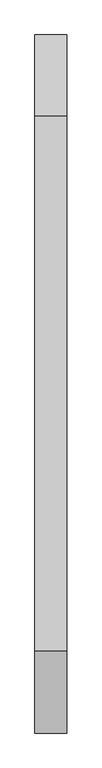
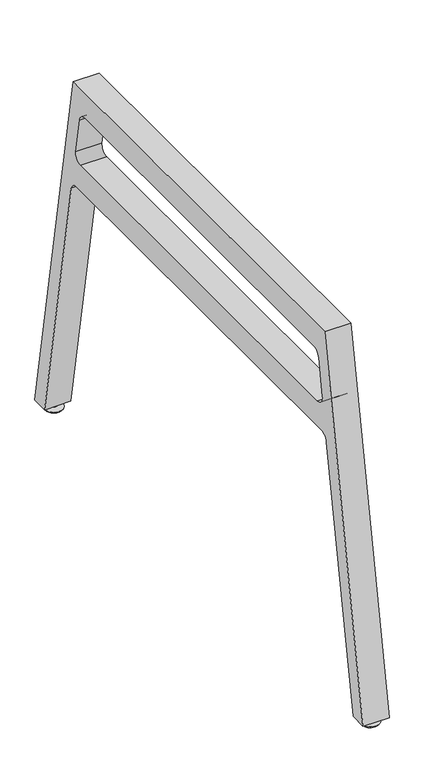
"""IFC4 building model written with IfcOpenShell, lengths in millimetres: furniture geometry, Steelcase Turnstone - Bivi - Table - Leg : 2D x 42 1/4W 28 1/2H."""

from ifc_helpers import new_model, si_unit, point, frame, frame_2d, origin, place, context, project, spatial, polyline, circle_curve, trimmed, segment, composite_curve, outline, extrude, source, transform, mapped, element, save
from ifc_brep_helpers import plane_surface, revolved_surface, spline_surface, advanced_brep


def furniture_07929c5c(model_context):
    return source(origin(), model_context, "Body", "SolidModel", [
        extrude(outline(composite_curve([segment(trimmed(circle_curve(frame_2d((24.5569238, -19.0749984)), 4.7559133), [point((19.8010105, -19.0749984))], [point((29.3128371, -19.0749984))], False, "CARTESIAN"), True, "CONTINUOUS"), segment(trimmed(circle_curve(frame_2d((24.5569238, -19.0749984)), 4.7559133), [point((29.3128371, -19.0749984))], [point((19.8010105, -19.0749984))], False, "CARTESIAN"), True, "CONTINUOUS")], self_intersect=False)), frame((0.0, 0.0, 13.97), z_axis=(0.0, 0.0, 1.0), x_axis=(1.0, 0.0, 0.0)), (0.0, 0.0, 1.0), 50.8),
        advanced_brep(
        [(18.6813191, -19.0778477, 10.16), (30.4074445, -19.0778477, 10.16), (17.7939505, -19.0282384, 6.584846), (31.2930423, -19.0282384, 6.584846)],
        [
            (0, 1, circle_curve(frame((24.5443818, -19.0778477, 10.16), z_axis=(0.0, 0.0, 1.0), x_axis=(1.0, 0.0, 0.0)), 5.8630627)),
            (1, 0, circle_curve(frame((24.5443818, -19.0778477, 10.16), z_axis=(0.0, 0.0, 1.0), x_axis=(1.0, 0.0, 0.0)), 5.8630627)),
            (2, 3, circle_curve(frame((24.5434964, -19.0282384, 6.584846), z_axis=(0.0, 0.0, -1.0), x_axis=(1.0, 0.0, 0.0)), 6.7495459)),
            (3, 2, circle_curve(frame((24.5434964, -19.0282384, 6.584846), z_axis=(0.0, 0.0, -1.0), x_axis=(1.0, 0.0, 0.0)), 6.7495459)),
            (2, 0),
            (1, 3),
        ],
        [
            plane_surface(frame((24.5443818, -19.0778477, 10.16), z_axis=(0.0, 0.0, 1.0), x_axis=(0.0, 1.0, 0.0))),
            plane_surface(frame((24.5434964, -19.0282384, 6.584846), z_axis=(0.0, 0.0, -1.0), x_axis=(0.0, 1.0, 0.0))),
            spline_surface(1, 2, [[(17.7939505, -19.0282384, 6.584846), (17.7939505, -12.278692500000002, 6.584846), (24.5434964, -12.278692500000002, 6.584846), (31.293042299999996, -12.278692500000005, 6.584846), (31.2930423, -19.0282384, 6.584846)], [(18.6813191, -19.0778477, 10.16), (18.6813191, -13.214785, 10.16), (24.5443818, -13.214785, 10.16), (30.4074445, -13.214785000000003, 10.16), (30.4074445, -19.0778477, 10.16)]], [2, 2], [3, 2, 3], [0.0, 1.0], [0.0, 1.0, 2.0], weights=[[1.0, 0.7071067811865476, 1.0, 0.7071067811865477, 1.0], [1.0, 0.7071067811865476, 1.0, 0.7071067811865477, 1.0]]),
            spline_surface(1, 2, [[(31.2930423, -19.0282384, 6.584846), (31.2930423, -25.7777843, 6.584846), (24.5434964, -25.7777843, 6.584846), (17.793950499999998, -25.777784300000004, 6.584846), (17.7939505, -19.0282384, 6.584846)], [(30.4074445, -19.0778477, 10.16), (30.4074445, -24.9409104, 10.16), (24.5443818, -24.9409104, 10.16), (18.6813191, -24.940910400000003, 10.16), (18.6813191, -19.0778477, 10.16)]], [2, 2], [3, 2, 3], [0.0, 1.0], [0.0, 1.0, 2.0], weights=[[1.0, 0.7071067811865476, 1.0, 0.7071067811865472, 1.0], [1.0, 0.7071067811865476, 1.0, 0.7071067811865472, 1.0]]),
        ],
        [
            (0, [[1, 2]]),
            (1, [[3, 4]]),
            (2, [[5, -2, 6, -3]]),
            (3, [[-6, -1, -5, -4]]),
        ],
    ),
        extrude(outline(composite_curve([segment(trimmed(circle_curve(frame_2d((24.5669801, -19.1101669)), 8.0885268), [point((16.4784533, -19.1101669))], [point((32.6555069, -19.1101669))], False, "CARTESIAN"), True, "CONTINUOUS"), segment(trimmed(circle_curve(frame_2d((24.5669801, -19.1101669)), 8.0885268), [point((32.6555069, -19.1101669))], [point((16.4784533, -19.1101669))], False, "CARTESIAN"), True, "CONTINUOUS")], self_intersect=False)), frame((0.0, 0.0, 10.16), z_axis=(0.0, 0.0, 1.0), x_axis=(1.0, 0.0, 0.0)), (0.0, 0.0, 1.0), 3.81),
        advanced_brep(
        [(17.7442301, -19.0320697, 6.584846), (31.3154293, -19.0320697, 6.584846), (7.0485966, -18.932851, 3.2723529), (41.8364836, -18.932851, 3.2723529)],
        [
            (0, 1, circle_curve(frame((24.5298297, -19.0320697, 6.584846), z_axis=(0.0, 0.0, 1.0), x_axis=(1.0, 0.0, 0.0)), 6.7855996)),
            (1, 0, circle_curve(frame((24.5298297, -19.0320697, 6.584846), z_axis=(0.0, 0.0, 1.0), x_axis=(1.0, 0.0, 0.0)), 6.7855996)),
            (2, 3, circle_curve(frame((24.4425401, -18.932851, 3.2723529), z_axis=(0.0, 0.0, -1.0), x_axis=(1.0, 0.0, 0.0)), 17.3939435)),
            (3, 2, circle_curve(frame((24.4425401, -18.932851, 3.2723529), z_axis=(0.0, 0.0, -1.0), x_axis=(1.0, 0.0, 0.0)), 17.3939435)),
            (2, 0),
            (1, 3),
        ],
        [
            plane_surface(frame((24.5298297, -19.0320697, 6.584846), z_axis=(0.0, 0.0, 1.0), x_axis=(0.0, 1.0, 0.0))),
            plane_surface(frame((24.4425401, -18.932851, 3.2723529), z_axis=(0.0, 0.0, -1.0), x_axis=(0.0, 1.0, 0.0))),
            spline_surface(1, 2, [[(7.0485966, -18.932851, 3.2723529), (7.0485966, -1.5389075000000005, 3.2723529), (24.4425401, -1.5389075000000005, 3.2723529), (41.836483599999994, -1.538907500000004, 3.2723529), (41.8364836, -18.932851, 3.2723529)], [(17.7442301, -19.0320697, 6.584846), (17.7442301, -12.2464701, 6.584846), (24.5298297, -12.2464701, 6.584846), (31.3154293, -12.246470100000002, 6.584846), (31.3154293, -19.0320697, 6.584846)]], [2, 2], [3, 2, 3], [0.0, 1.0], [0.0, 1.0, 2.0], weights=[[1.0, 0.7071067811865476, 1.0, 0.7071067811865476, 1.0], [1.0, 0.7071067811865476, 1.0, 0.7071067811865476, 1.0]]),
            spline_surface(1, 2, [[(41.8364836, -18.932851, 3.2723529), (41.8364836, -36.326794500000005, 3.2723529), (24.4425401, -36.326794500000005, 3.2723529), (7.048596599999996, -36.326794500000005, 3.2723529), (7.0485966, -18.932851, 3.2723529)], [(31.3154293, -19.0320697, 6.584846), (31.3154293, -25.817669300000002, 6.584846), (24.5298297, -25.817669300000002, 6.584846), (17.7442301, -25.817669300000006, 6.584846), (17.7442301, -19.0320697, 6.584846)]], [2, 2], [3, 2, 3], [0.0, 1.0], [0.0, 1.0, 2.0], weights=[[1.0, 0.7071067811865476, 1.0, 0.7071067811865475, 1.0], [1.0, 0.7071067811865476, 1.0, 0.7071067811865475, 1.0]]),
        ],
        [
            (0, [[1, 2]]),
            (1, [[3, 4]]),
            (2, [[5, -2, 6, -3]]),
            (3, [[-6, -1, -5, -4]]),
        ],
    ),
        advanced_brep(
        [(9.6227561, -19.1568354, 0.0), (39.4892983, -19.1568354, 0.0), (7.0611697, -19.1568354, 3.2723529), (42.0508847, -19.1568354, 3.2723529)],
        [
            (0, 1, circle_curve(frame((24.5560272, -19.1568354, 0.0), z_axis=(0.0, 0.0, -1.0), x_axis=(1.0, 0.0, 0.0)), 14.9332711)),
            (1, 0, circle_curve(frame((24.5560272, -19.1568354, 0.0), z_axis=(0.0, 0.0, -1.0), x_axis=(-1.0, 0.0, 0.0)), 14.9332711)),
            (2, 3, circle_curve(frame((24.5560272, -19.1568354, 3.2723529), z_axis=(0.0, 0.0, 1.0), x_axis=(-1.0, 0.0, 0.0)), 17.4948575)),
            (3, 2, circle_curve(frame((24.5560272, -19.1568354, 3.2723529), z_axis=(0.0, 0.0, 1.0), x_axis=(1.0, 0.0, 0.0)), 17.4948575)),
            (2, 0),
            (1, 3),
        ],
        [
            plane_surface(frame((24.5560272, -19.1568354, 0.0), z_axis=(0.0, 0.0, -1.0), x_axis=(0.0, 1.0, 0.0))),
            plane_surface(frame((24.5560272, -19.1568354, 3.2723529), z_axis=(0.0, 0.0, 1.0), x_axis=(0.0, 1.0, 0.0))),
            revolved_surface(polyline([(9.622756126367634, -19.1568354, 0.0), (7.061169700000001, -19.1568354, 3.2723529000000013)]), (24.5560272, -19.1568354, -19.0768238), (0.0, 0.0, 1.0)),
            revolved_surface(polyline([(39.489298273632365, -19.1568354, 0.0), (42.0508847, -19.1568354, 3.2723529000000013)]), (24.5560272, -19.1568354, -19.0768238), (0.0, 0.0, 1.0)),
        ],
        [
            (0, [[1, 2]]),
            (1, [[3, 4]]),
            (2, [[5, -2, 6, -3]]),
            (3, [[-6, -1, -5, -4]]),
        ],
    ),
        extrude(outline(composite_curve([segment(polyline([(-947.7462567, 723.9), (-125.4037554, 723.9), (0.0, 12.7000004), (-32.2398199, 12.7000004), (-119.468552, 507.3990362)]), True, "CONTINUOUS"), segment(trimmed(circle_curve(frame_2d((-135.3200361, 504.6039936)), 16.0960185), [point((-119.468552, 507.3990362))], [point((-135.3200361, 520.7000121))], True, "CARTESIAN"), True, "CONTINUOUS"), segment(polyline([(-135.3200361, 520.7000121), (-937.8760568, 520.7000121)]), True, "CONTINUOUS"), segment(trimmed(circle_curve(frame_2d((-937.8760568, 504.6589483)), 16.0410638), [point((-937.8760568, 520.7000121))], [point((-953.6734208, 507.4444497))], True, "CARTESIAN"), True, "CONTINUOUS"), segment(polyline([(-953.6734208, 507.4444497), (-1040.9102104, 12.7000004), (-1073.1500121, 12.7000004), (-947.7462567, 723.9)]), True, "CONTINUOUS")], self_intersect=False), holes=[composite_curve([segment(trimmed(circle_curve(frame_2d((-148.9336513, 586.74)), 15.24), [point((-148.9336513, 571.5))], [point((-133.9251809, 589.3863967))], True, "CARTESIAN"), True, "CONTINUOUS"), segment(polyline([(-133.9251809, 589.3863967), (-146.3545145, 659.8766923)]), True, "CONTINUOUS"), segment(trimmed(circle_curve(frame_2d((-162.1134084, 657.0979758)), 16.002), [point((-146.3545145, 659.8766923))], [point((-162.1134084, 673.0999758))], True, "CARTESIAN"), True, "CONTINUOUS"), segment(polyline([(-162.1134084, 673.0999758), (-911.0575547, 673.0999758)]), True, "CONTINUOUS"), segment(trimmed(circle_curve(frame_2d((-911.0575547, 657.1229387)), 15.9770371), [point((-911.0575547, 673.0999758))], [point((-926.7918646, 659.8973224))], True, "CARTESIAN"), True, "CONTINUOUS"), segment(polyline([(-926.7918646, 659.8973224), (-939.2463549, 589.2644073)]), True, "CONTINUOUS"), segment(trimmed(circle_curve(frame_2d((-924.3402476, 586.6360581)), 15.1360581), [point((-939.2463549, 589.2644073))], [point((-924.3402476, 571.5))], True, "CARTESIAN"), True, "CONTINUOUS"), segment(polyline([(-924.3402476, 571.5), (-148.9336513, 571.5)]), True, "CONTINUOUS")], self_intersect=False)]), frame((0.0, 0.0, 0.0), z_axis=(1.0, 0.0, 0.0), x_axis=(0.0, 1.0, 0.0)), (0.0, 0.0, 1.0), 49.1236),
        extrude(outline(composite_curve([segment(trimmed(circle_curve(frame_2d((24.5569238, -1054.0750137)), 4.7559133), [point((19.8010105, -1054.0750137))], [point((29.3128371, -1054.0750137))], False, "CARTESIAN"), True, "CONTINUOUS"), segment(trimmed(circle_curve(frame_2d((24.5569238, -1054.0750137)), 4.7559133), [point((29.3128371, -1054.0750137))], [point((19.8010105, -1054.0750137))], False, "CARTESIAN"), True, "CONTINUOUS")], self_intersect=False)), frame((0.0, 0.0, 13.97), z_axis=(0.0, 0.0, 1.0), x_axis=(1.0, 0.0, 0.0)), (0.0, 0.0, 1.0), 50.8),
        advanced_brep(
        [(18.6813191, -1054.0721644, 10.16), (30.4074445, -1054.0721644, 10.16), (17.7939505, -1054.1217738, 6.584846), (31.2930423, -1054.1217738, 6.584846)],
        [
            (0, 1, circle_curve(frame((24.5443818, -1054.0721644, 10.16), z_axis=(0.0, 0.0, 1.0), x_axis=(1.0, 0.0, 0.0)), 5.8630627)),
            (1, 0, circle_curve(frame((24.5443818, -1054.0721644, 10.16), z_axis=(0.0, 0.0, 1.0), x_axis=(1.0, 0.0, 0.0)), 5.8630627)),
            (2, 3, circle_curve(frame((24.5434964, -1054.1217738, 6.584846), z_axis=(0.0, 0.0, -1.0), x_axis=(1.0, 0.0, 0.0)), 6.7495459)),
            (3, 2, circle_curve(frame((24.5434964, -1054.1217738, 6.584846), z_axis=(0.0, 0.0, -1.0), x_axis=(1.0, 0.0, 0.0)), 6.7495459)),
            (2, 0),
            (1, 3),
        ],
        [
            plane_surface(frame((24.5443818, -1054.0721644, 10.16), z_axis=(0.0, 0.0, 1.0), x_axis=(0.0, 1.0, 0.0))),
            plane_surface(frame((24.5434964, -1054.1217738, 6.584846), z_axis=(0.0, 0.0, -1.0), x_axis=(0.0, 1.0, 0.0))),
            spline_surface(1, 2, [[(17.7939505, -1054.1217738, 6.584846), (17.7939505, -1047.3722279, 6.584846), (24.5434964, -1047.3722279, 6.584846), (31.293042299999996, -1047.3722279, 6.584846), (31.2930423, -1054.1217738, 6.584846)], [(18.6813191, -1054.0721644, 10.16), (18.6813191, -1048.2091017, 10.16), (24.5443818, -1048.2091017, 10.16), (30.4074445, -1048.2091017, 10.16), (30.4074445, -1054.0721644, 10.16)]], [2, 2], [3, 2, 3], [0.0, 1.0], [0.0, 1.0, 2.0], weights=[[1.0, 0.7071067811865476, 1.0, 0.7071067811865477, 1.0], [1.0, 0.7071067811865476, 1.0, 0.7071067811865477, 1.0]]),
            spline_surface(1, 2, [[(31.2930423, -1054.1217738, 6.584846), (31.2930423, -1060.8713197, 6.584846), (24.5434964, -1060.8713197, 6.584846), (17.793950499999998, -1060.8713197, 6.584846), (17.7939505, -1054.1217738, 6.584846)], [(30.4074445, -1054.0721644, 10.16), (30.4074445, -1059.9352271, 10.16), (24.5443818, -1059.9352271, 10.16), (18.6813191, -1059.9352271, 10.16), (18.6813191, -1054.0721644, 10.16)]], [2, 2], [3, 2, 3], [0.0, 1.0], [0.0, 1.0, 2.0], weights=[[1.0, 0.7071067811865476, 1.0, 0.7071067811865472, 1.0], [1.0, 0.7071067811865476, 1.0, 0.7071067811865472, 1.0]]),
        ],
        [
            (0, [[1, 2]]),
            (1, [[3, 4]]),
            (2, [[5, -2, 6, -3]]),
            (3, [[-6, -1, -5, -4]]),
        ],
    ),
        extrude(outline(composite_curve([segment(trimmed(circle_curve(frame_2d((24.5669801, -1054.0398453)), 8.0885268), [point((16.4784533, -1054.0398453))], [point((32.6555069, -1054.0398453))], False, "CARTESIAN"), True, "CONTINUOUS"), segment(trimmed(circle_curve(frame_2d((24.5669801, -1054.0398453)), 8.0885268), [point((32.6555069, -1054.0398453))], [point((16.4784533, -1054.0398453))], False, "CARTESIAN"), True, "CONTINUOUS")], self_intersect=False)), frame((0.0, 0.0, 10.16), z_axis=(0.0, 0.0, 1.0), x_axis=(1.0, 0.0, 0.0)), (0.0, 0.0, 1.0), 3.81),
        advanced_brep(
        [(17.7442301, -1054.1179424, 6.584846), (31.3154293, -1054.1179424, 6.584846), (7.0485966, -1054.2171611, 3.2723529), (41.8364836, -1054.2171611, 3.2723529)],
        [
            (0, 1, circle_curve(frame((24.5298297, -1054.1179424, 6.584846), z_axis=(0.0, 0.0, 1.0), x_axis=(1.0, 0.0, 0.0)), 6.7855996)),
            (1, 0, circle_curve(frame((24.5298297, -1054.1179424, 6.584846), z_axis=(0.0, 0.0, 1.0), x_axis=(1.0, 0.0, 0.0)), 6.7855996)),
            (2, 3, circle_curve(frame((24.4425401, -1054.2171611, 3.2723529), z_axis=(0.0, 0.0, -1.0), x_axis=(1.0, 0.0, 0.0)), 17.3939435)),
            (3, 2, circle_curve(frame((24.4425401, -1054.2171611, 3.2723529), z_axis=(0.0, 0.0, -1.0), x_axis=(1.0, 0.0, 0.0)), 17.3939435)),
            (2, 0),
            (1, 3),
        ],
        [
            plane_surface(frame((24.5298297, -1054.1179424, 6.584846), z_axis=(0.0, 0.0, 1.0), x_axis=(0.0, 1.0, 0.0))),
            plane_surface(frame((24.4425401, -1054.2171611, 3.2723529), z_axis=(0.0, 0.0, -1.0), x_axis=(0.0, 1.0, 0.0))),
            spline_surface(1, 2, [[(7.0485966, -1054.2171611, 3.2723529), (7.0485966, -1036.8232176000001, 3.2723529), (24.4425401, -1036.8232176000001, 3.2723529), (41.836483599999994, -1036.8232176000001, 3.2723529), (41.8364836, -1054.2171611, 3.2723529)], [(17.7442301, -1054.1179424, 6.584846), (17.7442301, -1047.3323427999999, 6.584846), (24.5298297, -1047.3323427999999, 6.584846), (31.3154293, -1047.3323427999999, 6.584846), (31.3154293, -1054.1179424, 6.584846)]], [2, 2], [3, 2, 3], [0.0, 1.0], [0.0, 1.0, 2.0], weights=[[1.0, 0.7071067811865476, 1.0, 0.7071067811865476, 1.0], [1.0, 0.7071067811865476, 1.0, 0.7071067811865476, 1.0]]),
            spline_surface(1, 2, [[(41.8364836, -1054.2171611, 3.2723529), (41.8364836, -1071.6111046, 3.2723529), (24.4425401, -1071.6111046, 3.2723529), (7.048596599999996, -1071.6111046, 3.2723529), (7.0485966, -1054.2171611, 3.2723529)], [(31.3154293, -1054.1179424, 6.584846), (31.3154293, -1060.903542, 6.584846), (24.5298297, -1060.903542, 6.584846), (17.7442301, -1060.903542, 6.584846), (17.7442301, -1054.1179424, 6.584846)]], [2, 2], [3, 2, 3], [0.0, 1.0], [0.0, 1.0, 2.0], weights=[[1.0, 0.7071067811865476, 1.0, 0.7071067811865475, 1.0], [1.0, 0.7071067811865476, 1.0, 0.7071067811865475, 1.0]]),
        ],
        [
            (0, [[1, 2]]),
            (1, [[3, 4]]),
            (2, [[5, -2, 6, -3]]),
            (3, [[-6, -1, -5, -4]]),
        ],
    ),
        advanced_brep(
        [(9.6227561, -1053.9931767, 0.0), (39.4892983, -1053.9931767, 0.0), (7.0611697, -1053.9931767, 3.2723529), (42.0508847, -1053.9931767, 3.2723529)],
        [
            (0, 1, circle_curve(frame((24.5560272, -1053.9931767, 0.0), z_axis=(0.0, 0.0, -1.0), x_axis=(1.0, 0.0, 0.0)), 14.9332711)),
            (1, 0, circle_curve(frame((24.5560272, -1053.9931767, 0.0), z_axis=(0.0, 0.0, -1.0), x_axis=(-1.0, 0.0, 0.0)), 14.9332711)),
            (2, 3, circle_curve(frame((24.5560272, -1053.9931767, 3.2723529), z_axis=(0.0, 0.0, 1.0), x_axis=(-1.0, 0.0, 0.0)), 17.4948575)),
            (3, 2, circle_curve(frame((24.5560272, -1053.9931767, 3.2723529), z_axis=(0.0, 0.0, 1.0), x_axis=(1.0, 0.0, 0.0)), 17.4948575)),
            (2, 0),
            (1, 3),
        ],
        [
            plane_surface(frame((24.5560272, -1053.9931767, 0.0), z_axis=(0.0, 0.0, -1.0), x_axis=(0.0, 1.0, 0.0))),
            plane_surface(frame((24.5560272, -1053.9931767, 3.2723529), z_axis=(0.0, 0.0, 1.0), x_axis=(0.0, 1.0, 0.0))),
            revolved_surface(polyline([(9.622756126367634, -1053.9931767, 0.0), (7.061169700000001, -1053.9931767, 3.2723529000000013)]), (24.5560272, -1053.9931767, -19.0768238), (0.0, 0.0, 1.0)),
            revolved_surface(polyline([(39.489298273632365, -1053.9931767, 0.0), (42.0508847, -1053.9931767, 3.2723529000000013)]), (24.5560272, -1053.9931767, -19.0768238), (0.0, 0.0, 1.0)),
        ],
        [
            (0, [[1, 2]]),
            (1, [[3, 4]]),
            (2, [[5, -2, 6, -3]]),
            (3, [[-6, -1, -5, -4]]),
        ],
    ),
    ])


if __name__ == "__main__":
    model = new_model("IFC4")
    model_context = context("Model", 3, world=origin())
    ifc_project = project(units=[si_unit("LENGTHUNIT", "METRE", prefix="MILLI")], contexts=[model_context])
    site = spatial("IfcSite", under=ifc_project)
    building = spatial("IfcBuilding", under=site)
    placement = place(None, origin())
    furniture_shape = furniture_07929c5c(model_context)
    element("IfcFurniture", 1, ObjectType="Steelcase Turnstone - Bivi - Table - Leg : 2D x 42 1/4W 28 1/2H", at=placement, inside=building, context=model_context, shape_type="MappedRepresentation", body=[
        mapped(furniture_shape, transform((0.0, 0.0, 0.0), x_axis=(1.0, 0.0, 0.0), y_axis=(0.0, 1.0, 0.0), z_axis=(0.0, 0.0, 1.0))),
    ])
    save(model, "model.ifc")
